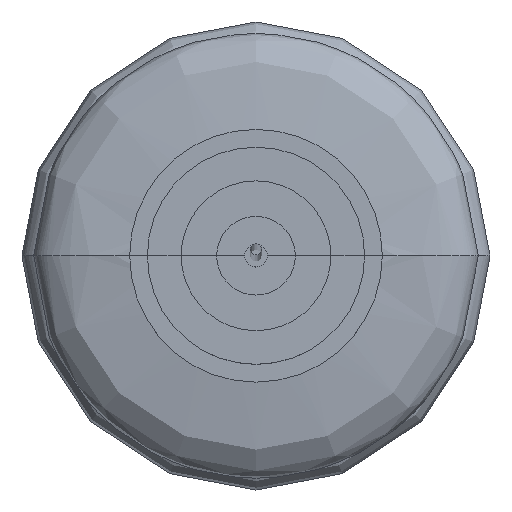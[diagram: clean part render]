
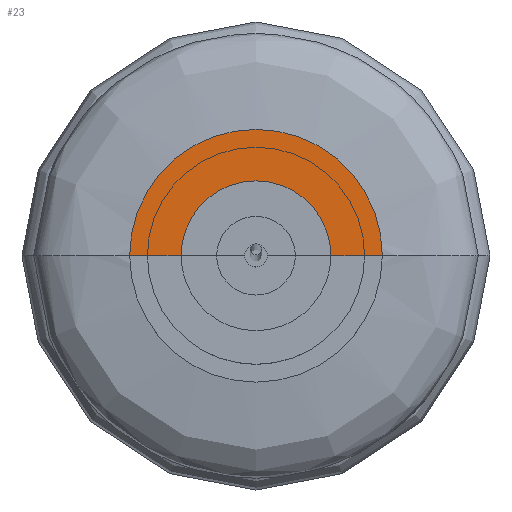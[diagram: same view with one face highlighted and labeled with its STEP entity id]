
A CAD part, top view. The second image highlights one B-rep face of the part: STEP entity #23.
In plain terms, the highlighted planar face has unit normal (0, 0, 1).
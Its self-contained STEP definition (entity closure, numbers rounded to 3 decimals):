
#23=ADVANCED_FACE('',(#47),#322,.T.);
#47=FACE_OUTER_BOUND('',#71,.T.);
#71=EDGE_LOOP('',(#109,#110,#111,#112));
#109=ORIENTED_EDGE('',*,*,#194,.F.);
#110=ORIENTED_EDGE('',*,*,#187,.T.);
#111=ORIENTED_EDGE('',*,*,#195,.T.);
#112=ORIENTED_EDGE('',*,*,#211,.F.);
#187=EDGE_CURVE('',#303,#302,#280,.T.);
#194=EDGE_CURVE('',#303,#312,#230,.T.);
#195=EDGE_CURVE('',#302,#313,#231,.T.);
#211=EDGE_CURVE('',#312,#313,#289,.T.);
#230=TRIMMED_CURVE($,#254,(#1061),(#1062),.T.,.CARTESIAN.);
#231=TRIMMED_CURVE($,#255,(#1064),(#1065),.T.,.CARTESIAN.);
#254=CIRCLE('',#456,67.498);
#255=CIRCLE('',#457,39.998);
#280=(
BOUNDED_CURVE()
B_SPLINE_CURVE(5,(#1027,#1028,#1029,#1030,#1031,#1032),.UNSPECIFIED.,.F.,
 .F.)
B_SPLINE_CURVE_WITH_KNOTS((6,6),(267.935,295.435),
 .UNSPECIFIED.)
CURVE()
GEOMETRIC_REPRESENTATION_ITEM()
RATIONAL_B_SPLINE_CURVE((1.,1.,1.,1.,1.,1.))
REPRESENTATION_ITEM('')
);
#289=(
BOUNDED_CURVE()
B_SPLINE_CURVE(5,(#1156,#1157,#1158,#1159,#1160,#1161),.UNSPECIFIED.,.F.,
 .F.)
B_SPLINE_CURVE_WITH_KNOTS((6,6),(267.935,295.435),
 .UNSPECIFIED.)
CURVE()
GEOMETRIC_REPRESENTATION_ITEM()
RATIONAL_B_SPLINE_CURVE((1.,1.,1.,1.,1.,1.))
REPRESENTATION_ITEM('')
);
#302=VERTEX_POINT('',#943);
#303=VERTEX_POINT('',#944);
#312=VERTEX_POINT('',#953);
#313=VERTEX_POINT('',#954);
#322=PLANE('',#437);
#437=AXIS2_PLACEMENT_3D('',#742,#487,$);
#456=AXIS2_PLACEMENT_3D($,#1060,#510,#511);
#457=AXIS2_PLACEMENT_3D($,#1063,#512,#513);
#487=DIRECTION('',(0.,0.,1.));
#510=DIRECTION('',(0.,0.,-1.));
#511=DIRECTION('',(-1.,0.,0.));
#512=DIRECTION('',(0.,0.,-1.));
#513=DIRECTION('',(-1.,0.,0.));
#742=CARTESIAN_POINT('',(-67.498,0.,-4.));
#943=CARTESIAN_POINT('',(-39.998,0.,-4.));
#944=CARTESIAN_POINT('',(-67.498,0.,-4.));
#953=CARTESIAN_POINT('',(67.498,0.,-4.));
#954=CARTESIAN_POINT('',(39.998,0.,-4.));
#1027=CARTESIAN_POINT('',(-67.498,0.,-4.));
#1028=CARTESIAN_POINT('',(-61.998,0.,-4.));
#1029=CARTESIAN_POINT('',(-56.498,0.,-4.));
#1030=CARTESIAN_POINT('',(-50.998,0.,-4.));
#1031=CARTESIAN_POINT('',(-45.498,0.,-4.));
#1032=CARTESIAN_POINT('',(-39.998,0.,-4.));
#1060=CARTESIAN_POINT('',(0.,0.,-4.));
#1061=CARTESIAN_POINT('',(-67.498,0.,-4.));
#1062=CARTESIAN_POINT('',(67.498,0.,-4.));
#1063=CARTESIAN_POINT('',(0.,0.,-4.));
#1064=CARTESIAN_POINT('',(-39.998,0.,-4.));
#1065=CARTESIAN_POINT('',(39.998,0.,-4.));
#1156=CARTESIAN_POINT('',(67.498,0.,-4.));
#1157=CARTESIAN_POINT('',(61.998,0.,-4.));
#1158=CARTESIAN_POINT('',(56.498,0.,-4.));
#1159=CARTESIAN_POINT('',(50.998,0.,-4.));
#1160=CARTESIAN_POINT('',(45.498,0.,-4.));
#1161=CARTESIAN_POINT('',(39.998,0.,-4.));
